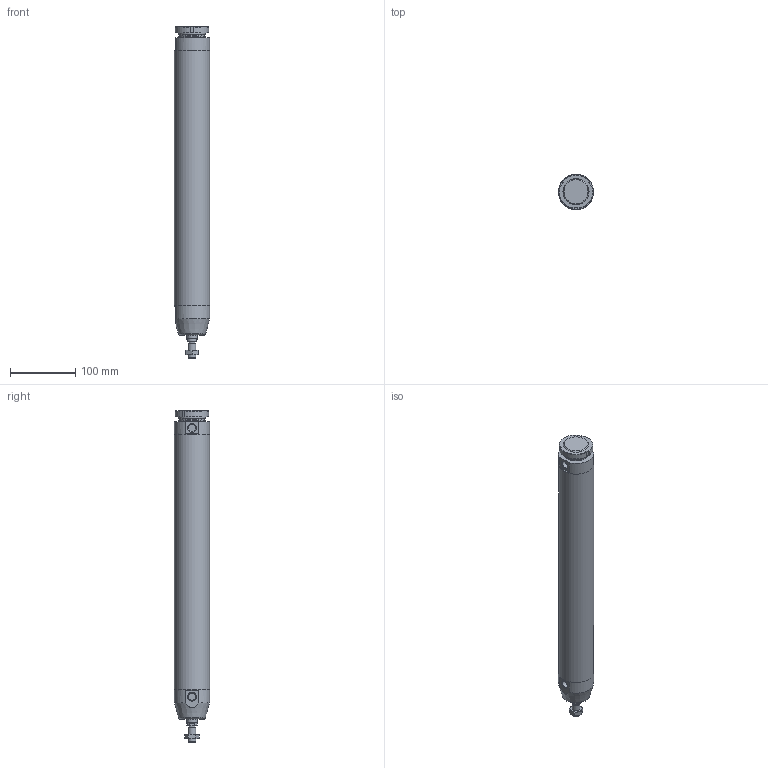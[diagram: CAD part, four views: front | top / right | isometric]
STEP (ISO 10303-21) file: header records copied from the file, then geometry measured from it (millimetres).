
FILE_DESCRIPTION(/* description */ (''),/* implementation_level */ '2;1');
FILE_NAME(/* name */ 'I:\Area Tecnica\Documenti\A-Manieri\_Inventor\12X\12X#B_###_####_#_#\12XAB_050_0350_#_#.stp',/* time_stamp */ '2015-04-27T16:25:48+02:00',/* author */ ('maniean1'),/* organization */ ('Pneumax S.p.A.'),/* preprocessor_version */ 'ST-DEVELOPER v15.2',/* originating_system */ 'Autodesk Inventor 2014',/* authorisation */ '');
FILE_SCHEMA (('AUTOMOTIVE_DESIGN { 1 0 10303 214 3 1 1 }'));
Length unit declared in the file: millimetre
Products named in the file (7): C1250_619-0350; 12X50_613; S12X50_0350; 12X_50_11; 12X50_620; G12X_050_05; 12XAB_050_0350_#_#
Bounding box: 54 x 54 x 510 mm (x, y, z)
Volume: 451563.5 mm3; surface area: 189012.3 mm2
Topology: 6 solids, 6 shells, 80 faces, 175 edges, 112 vertices
Faces by surface type: plane 40, cylinder 20, cone 19, torus 1
Full cylindrical faces by diameter (mm): 10.2 x1, 11.4 x2, 12 x2, 14 x1, 15.6 x1, 16 x1, 38.2 x1, 40 x3, 50 x2, 54 x3
Entity records: 2134 total; most frequent: CARTESIAN_POINT 399, DIRECTION 359, ORIENTED_EDGE 282, AXIS2_PLACEMENT_3D 154, EDGE_CURVE 141, EDGE_LOOP 122, VERTEX_POINT 107, ADVANCED_FACE 80
